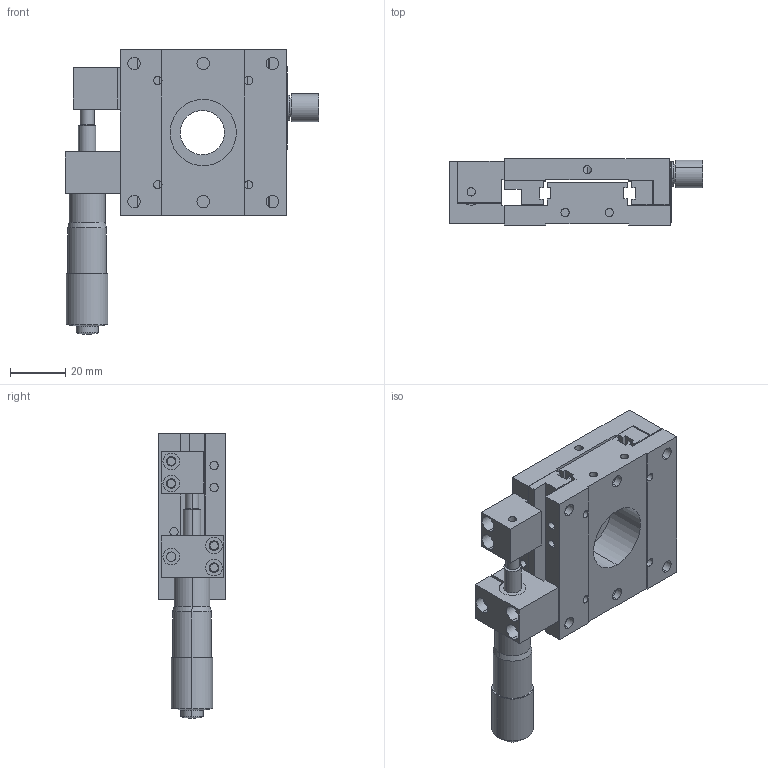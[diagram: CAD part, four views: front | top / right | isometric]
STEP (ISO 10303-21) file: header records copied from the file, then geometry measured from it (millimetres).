
FILE_DESCRIPTION (( 'STEP AP203' ), '1' );
FILE_NAME ('M1-627-R1.STEP', '2014-07-29T09:44:46', ( 'Registered User' ), ( 'Microsoft Corporation' ), 'SwSTEP 2.0', 'SolidWorks 2012', '' );
FILE_SCHEMA (( 'CONFIG_CONTROL_DESIGN' ));
Length unit declared in the file: millimetre
Products named in the file (12): M1-627-R1; Head(15mm); PIN2; BALL BEARING GUIDE2; BALL BEARING GUIDE; WASHER; PIN BLOCK; MICRO HEAD BLOCK; CLAMP BOLT; BRACKET; CARRIAGE PLATE; BASE PLATE
Assembly tree (11 placements, depth 2):
  M1-627-R1
    BASE PLATE
    CARRIAGE PLATE
    BRACKET
    CLAMP BOLT
    MICRO HEAD BLOCK
    PIN BLOCK
    WASHER
    BALL BEARING GUIDE
    BALL BEARING GUIDE2
    PIN2
    Head(15mm)
Bounding box: 91.9 x 24 x 103 mm (x, y, z)
Volume: 82124.4 mm3; surface area: 40631.1 mm2
Topology: 11 solids, 11 shells, 391 faces, 922 edges, 612 vertices
Faces by surface type: cylinder 218, plane 163, sphere 4, cone 4, torus 2
Entity records: 12894 total; most frequent: DIRECTION 2182, CARTESIAN_POINT 1985, ORIENTED_EDGE 1844, EDGE_CURVE 922, AXIS2_PLACEMENT_3D 859, VERTEX_POINT 612, EDGE_LOOP 522, LINE 464
